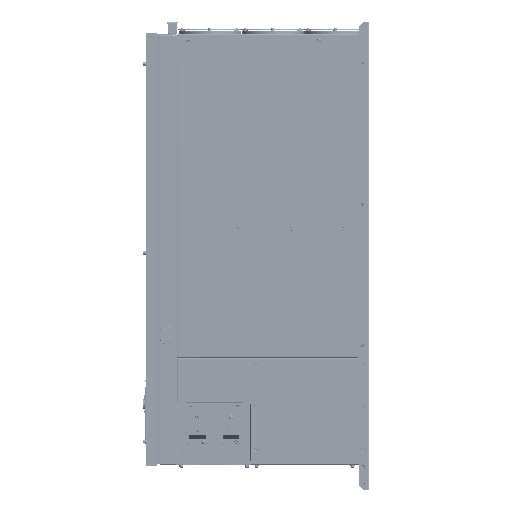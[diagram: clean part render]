
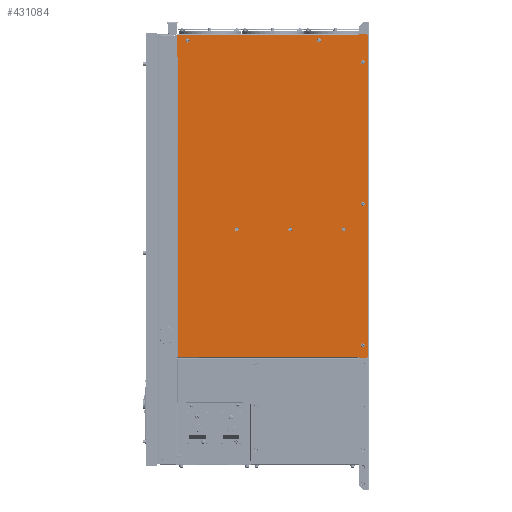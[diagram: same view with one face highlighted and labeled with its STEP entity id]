
A CAD part, left-side view. The second image highlights one B-rep face of the part: STEP entity #431084.
In plain terms, the highlighted planar face has unit normal (-1, 0, 0).
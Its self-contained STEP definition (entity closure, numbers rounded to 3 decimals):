
#20470=FACE_BOUND('',#68902,.T.);
#20471=FACE_BOUND('',#68903,.T.);
#20472=FACE_BOUND('',#68904,.T.);
#20473=FACE_BOUND('',#68905,.T.);
#20474=FACE_BOUND('',#68906,.T.);
#20475=FACE_BOUND('',#68907,.T.);
#20476=FACE_BOUND('',#68908,.T.);
#20477=FACE_BOUND('',#68909,.T.);
#26123=CIRCLE('',#459765,3.5);
#26124=CIRCLE('',#459767,0.75);
#26125=CIRCLE('',#459768,0.75);
#26126=CIRCLE('',#459769,0.75);
#26127=CIRCLE('',#459770,3.5);
#26128=CIRCLE('',#459771,3.5);
#26129=CIRCLE('',#459772,3.5);
#26130=CIRCLE('',#459773,3.5);
#26131=CIRCLE('',#459774,4.6);
#26132=CIRCLE('',#459775,4.6);
#26133=CIRCLE('',#459776,4.6);
#43490=FACE_OUTER_BOUND('',#68901,.T.);
#68901=EDGE_LOOP('',(#338637,#338638,#338639,#338640,#338641,#338642,#338643,
#338644,#338645,#338646,#338647,#338648,#338649,#338650,#338651));
#68902=EDGE_LOOP('',(#338652));
#68903=EDGE_LOOP('',(#338653));
#68904=EDGE_LOOP('',(#338654));
#68905=EDGE_LOOP('',(#338655));
#68906=EDGE_LOOP('',(#338656));
#68907=EDGE_LOOP('',(#338657));
#68908=EDGE_LOOP('',(#338658));
#68909=EDGE_LOOP('',(#338659));
#105638=LINE('',#700711,#151183);
#105639=LINE('',#700713,#151184);
#105640=LINE('',#700715,#151185);
#105641=LINE('',#700717,#151186);
#105642=LINE('',#700719,#151187);
#105643=LINE('',#700723,#151188);
#105644=LINE('',#700725,#151189);
#105645=LINE('',#700727,#151190);
#105646=LINE('',#700730,#151191);
#105647=LINE('',#700732,#151192);
#105648=LINE('',#700736,#151193);
#105649=LINE('',#700737,#151194);
#151183=VECTOR('',#529729,4.243);
#151184=VECTOR('',#529730,781.8);
#151185=VECTOR('',#529731,4.243);
#151186=VECTOR('',#529732,20.5);
#151187=VECTOR('',#529733,1.05);
#151188=VECTOR('',#529736,441.95);
#151189=VECTOR('',#529737,53.7);
#151190=VECTOR('',#529738,1.05);
#151191=VECTOR('',#529741,729.75);
#151192=VECTOR('',#529742,440.15);
#151193=VECTOR('',#529745,1.05);
#151194=VECTOR('',#529746,20.5);
#198436=VERTEX_POINT('',#700638);
#198464=VERTEX_POINT('',#700705);
#198465=VERTEX_POINT('',#700709);
#198466=VERTEX_POINT('',#700710);
#198467=VERTEX_POINT('',#700712);
#198468=VERTEX_POINT('',#700714);
#198469=VERTEX_POINT('',#700716);
#198470=VERTEX_POINT('',#700718);
#198471=VERTEX_POINT('',#700720);
#198472=VERTEX_POINT('',#700722);
#198473=VERTEX_POINT('',#700724);
#198474=VERTEX_POINT('',#700726);
#198475=VERTEX_POINT('',#700728);
#198476=VERTEX_POINT('',#700731);
#198477=VERTEX_POINT('',#700733);
#198478=VERTEX_POINT('',#700735);
#198479=VERTEX_POINT('',#700738);
#198480=VERTEX_POINT('',#700740);
#198481=VERTEX_POINT('',#700742);
#198482=VERTEX_POINT('',#700744);
#198483=VERTEX_POINT('',#700746);
#198484=VERTEX_POINT('',#700748);
#198485=VERTEX_POINT('',#700750);
#248159=EDGE_CURVE('',#198464,#198464,#26123,.T.);
#248160=EDGE_CURVE('',#198465,#198466,#105638,.T.);
#248161=EDGE_CURVE('',#198466,#198467,#105639,.T.);
#248162=EDGE_CURVE('',#198467,#198468,#105640,.T.);
#248163=EDGE_CURVE('',#198468,#198469,#105641,.T.);
#248164=EDGE_CURVE('',#198469,#198470,#105642,.T.);
#248165=EDGE_CURVE('',#198470,#198471,#26124,.T.);
#248166=EDGE_CURVE('',#198471,#198472,#105643,.T.);
#248167=EDGE_CURVE('',#198472,#198473,#105644,.T.);
#248168=EDGE_CURVE('',#198473,#198474,#105645,.T.);
#248169=EDGE_CURVE('',#198474,#198475,#26125,.T.);
#248170=EDGE_CURVE('',#198475,#198436,#105646,.T.);
#248171=EDGE_CURVE('',#198436,#198476,#105647,.T.);
#248172=EDGE_CURVE('',#198477,#198476,#26126,.T.);
#248173=EDGE_CURVE('',#198478,#198477,#105648,.T.);
#248174=EDGE_CURVE('',#198478,#198465,#105649,.T.);
#248175=EDGE_CURVE('',#198479,#198479,#26127,.T.);
#248176=EDGE_CURVE('',#198480,#198480,#26128,.T.);
#248177=EDGE_CURVE('',#198481,#198481,#26129,.T.);
#248178=EDGE_CURVE('',#198482,#198482,#26130,.T.);
#248179=EDGE_CURVE('',#198483,#198483,#26131,.T.);
#248180=EDGE_CURVE('',#198484,#198484,#26132,.T.);
#248181=EDGE_CURVE('',#198485,#198485,#26133,.T.);
#338637=ORIENTED_EDGE('',*,*,#248160,.T.);
#338638=ORIENTED_EDGE('',*,*,#248161,.T.);
#338639=ORIENTED_EDGE('',*,*,#248162,.T.);
#338640=ORIENTED_EDGE('',*,*,#248163,.T.);
#338641=ORIENTED_EDGE('',*,*,#248164,.T.);
#338642=ORIENTED_EDGE('',*,*,#248165,.T.);
#338643=ORIENTED_EDGE('',*,*,#248166,.T.);
#338644=ORIENTED_EDGE('',*,*,#248167,.T.);
#338645=ORIENTED_EDGE('',*,*,#248168,.T.);
#338646=ORIENTED_EDGE('',*,*,#248169,.T.);
#338647=ORIENTED_EDGE('',*,*,#248170,.T.);
#338648=ORIENTED_EDGE('',*,*,#248171,.T.);
#338649=ORIENTED_EDGE('',*,*,#248172,.F.);
#338650=ORIENTED_EDGE('',*,*,#248173,.F.);
#338651=ORIENTED_EDGE('',*,*,#248174,.T.);
#338652=ORIENTED_EDGE('',*,*,#248175,.F.);
#338653=ORIENTED_EDGE('',*,*,#248176,.F.);
#338654=ORIENTED_EDGE('',*,*,#248177,.F.);
#338655=ORIENTED_EDGE('',*,*,#248178,.F.);
#338656=ORIENTED_EDGE('',*,*,#248159,.F.);
#338657=ORIENTED_EDGE('',*,*,#248179,.T.);
#338658=ORIENTED_EDGE('',*,*,#248180,.T.);
#338659=ORIENTED_EDGE('',*,*,#248181,.T.);
#410493=PLANE('',#459766);
#431084=ADVANCED_FACE('',(#43490,#20470,#20471,#20472,#20473,#20474,#20475,
#20476,#20477),#410493,.T.);
#459765=AXIS2_PLACEMENT_3D('',#700707,#529725,#529726);
#459766=AXIS2_PLACEMENT_3D('',#700708,#529727,#529728);
#459767=AXIS2_PLACEMENT_3D('',#700721,#529734,#529735);
#459768=AXIS2_PLACEMENT_3D('',#700729,#529739,#529740);
#459769=AXIS2_PLACEMENT_3D('',#700734,#529743,#529744);
#459770=AXIS2_PLACEMENT_3D('',#700739,#529747,#529748);
#459771=AXIS2_PLACEMENT_3D('',#700741,#529749,#529750);
#459772=AXIS2_PLACEMENT_3D('',#700743,#529751,#529752);
#459773=AXIS2_PLACEMENT_3D('',#700745,#529753,#529754);
#459774=AXIS2_PLACEMENT_3D('',#700747,#529755,#529756);
#459775=AXIS2_PLACEMENT_3D('',#700749,#529757,#529758);
#459776=AXIS2_PLACEMENT_3D('',#700751,#529759,#529760);
#529725=DIRECTION('center_axis',(-1.,0.,0.));
#529726=DIRECTION('ref_axis',(0.,0.,-1.));
#529727=DIRECTION('center_axis',(-1.,0.,0.));
#529728=DIRECTION('ref_axis',(0.,0.,1.));
#529729=DIRECTION('',(0.,-0.707,0.707));
#529730=DIRECTION('',(0.,0.,1.));
#529731=DIRECTION('',(0.,0.707,0.707));
#529732=DIRECTION('',(0.,1.,0.));
#529733=DIRECTION('',(0.,0.,-1.));
#529734=DIRECTION('center_axis',(1.,0.,0.));
#529735=DIRECTION('ref_axis',(0.,-1.,0.));
#529736=DIRECTION('',(0.,1.,0.));
#529737=DIRECTION('',(0.,0.,-1.));
#529738=DIRECTION('',(0.,-1.,0.));
#529739=DIRECTION('center_axis',(1.,0.,0.));
#529740=DIRECTION('ref_axis',(0.,0.,1.));
#529741=DIRECTION('',(0.,0.,-1.));
#529742=DIRECTION('',(0.,-1.,0.));
#529743=DIRECTION('center_axis',(-1.,0.,0.));
#529744=DIRECTION('ref_axis',(0.,-1.,0.));
#529745=DIRECTION('',(0.,0.,1.));
#529746=DIRECTION('',(0.,-1.,0.));
#529747=DIRECTION('center_axis',(-1.,0.,0.));
#529748=DIRECTION('ref_axis',(0.,0.,-1.));
#529749=DIRECTION('center_axis',(-1.,0.,0.));
#529750=DIRECTION('ref_axis',(0.,0.,-1.));
#529751=DIRECTION('center_axis',(-1.,0.,0.));
#529752=DIRECTION('ref_axis',(0.,0.,-1.));
#529753=DIRECTION('center_axis',(-1.,0.,0.));
#529754=DIRECTION('ref_axis',(0.,0.,-1.));
#529755=DIRECTION('center_axis',(1.,0.,0.));
#529756=DIRECTION('ref_axis',(0.,0.,1.));
#529757=DIRECTION('center_axis',(1.,0.,0.));
#529758=DIRECTION('ref_axis',(0.,0.,1.));
#529759=DIRECTION('center_axis',(1.,0.,0.));
#529760=DIRECTION('ref_axis',(0.,0.,1.));
#700638=CARTESIAN_POINT('',(-184.5,466.9,-246.));
#700705=CARTESIAN_POINT('',(-184.5,16.,-214.3));
#700707=CARTESIAN_POINT('Origin',(-184.5,16.,-217.8));
#700708=CARTESIAN_POINT('Origin',(-184.5,-304.38,-440.054));
#700709=CARTESIAN_POINT('',(-184.5,5.5,-247.8));
#700710=CARTESIAN_POINT('',(-184.5,2.5,-244.8));
#700711=CARTESIAN_POINT('',(-184.5,5.5,-247.8));
#700712=CARTESIAN_POINT('',(-184.5,2.5,537.));
#700713=CARTESIAN_POINT('',(-184.5,2.5,-244.8));
#700714=CARTESIAN_POINT('',(-184.5,5.5,540.));
#700715=CARTESIAN_POINT('',(-184.5,2.5,537.));
#700716=CARTESIAN_POINT('',(-184.5,26.,540.));
#700717=CARTESIAN_POINT('',(-184.5,5.5,540.));
#700718=CARTESIAN_POINT('',(-184.5,26.,538.95));
#700719=CARTESIAN_POINT('',(-184.5,26.,540.));
#700720=CARTESIAN_POINT('',(-184.5,26.75,538.2));
#700721=CARTESIAN_POINT('Origin',(-184.5,26.75,538.95));
#700722=CARTESIAN_POINT('',(-184.5,468.7,538.2));
#700723=CARTESIAN_POINT('',(-184.5,26.75,538.2));
#700724=CARTESIAN_POINT('',(-184.5,468.7,484.5));
#700725=CARTESIAN_POINT('',(-184.5,468.7,538.2));
#700726=CARTESIAN_POINT('',(-184.5,467.65,484.5));
#700727=CARTESIAN_POINT('',(-184.5,468.7,484.5));
#700728=CARTESIAN_POINT('',(-184.5,466.9,483.75));
#700729=CARTESIAN_POINT('Origin',(-184.5,467.65,483.75));
#700730=CARTESIAN_POINT('',(-184.5,466.9,483.75));
#700731=CARTESIAN_POINT('',(-184.5,26.75,-246.));
#700732=CARTESIAN_POINT('',(-184.5,466.9,-246.));
#700733=CARTESIAN_POINT('',(-184.5,26.,-246.75));
#700734=CARTESIAN_POINT('Origin',(-184.5,26.75,-246.75));
#700735=CARTESIAN_POINT('',(-184.5,26.,-247.8));
#700736=CARTESIAN_POINT('',(-184.5,26.,-247.8));
#700737=CARTESIAN_POINT('',(-184.5,26.,-247.8));
#700738=CARTESIAN_POINT('',(-184.5,16.,130.7));
#700739=CARTESIAN_POINT('Origin',(-184.5,16.,127.2));
#700740=CARTESIAN_POINT('',(-184.5,16.,475.7));
#700741=CARTESIAN_POINT('Origin',(-184.5,16.,472.2));
#700742=CARTESIAN_POINT('',(-184.5,122.5,528.5));
#700743=CARTESIAN_POINT('Origin',(-184.5,122.5,525.));
#700744=CARTESIAN_POINT('',(-184.5,442.5,528.5));
#700745=CARTESIAN_POINT('Origin',(-184.5,442.5,525.));
#700746=CARTESIAN_POINT('',(-184.5,322.5,69.6));
#700747=CARTESIAN_POINT('Origin',(-184.5,322.5,65.));
#700748=CARTESIAN_POINT('',(-184.5,192.5,69.6));
#700749=CARTESIAN_POINT('Origin',(-184.5,192.5,65.));
#700750=CARTESIAN_POINT('',(-184.5,62.5,69.6));
#700751=CARTESIAN_POINT('Origin',(-184.5,62.5,65.));
